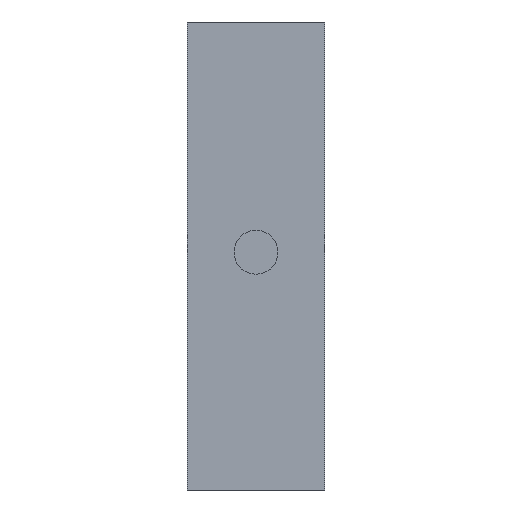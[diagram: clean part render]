
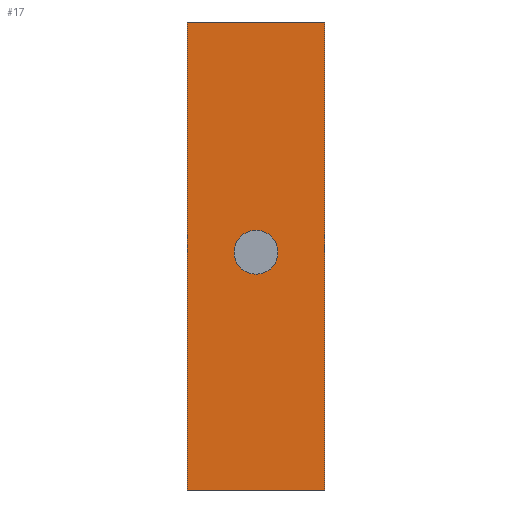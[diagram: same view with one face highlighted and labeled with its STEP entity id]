
A CAD part, left-side view. The second image highlights one B-rep face of the part: STEP entity #17.
In plain terms, the highlighted planar face has unit normal (-1, 0, 0).
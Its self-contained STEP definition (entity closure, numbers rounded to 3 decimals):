
#17 = ADVANCED_FACE('',(#18,#137),#32,.F.);
#18 = FACE_BOUND('',#19,.F.);
#19 = EDGE_LOOP('',(#20,#55,#83,#111));
#20 = ORIENTED_EDGE('',*,*,#21,.F.);
#21 = EDGE_CURVE('',#22,#24,#26,.T.);
#22 = VERTEX_POINT('',#23);
#23 = CARTESIAN_POINT('',(0.,0.,0.));
#24 = VERTEX_POINT('',#25);
#25 = CARTESIAN_POINT('',(0.,0.,340.5));
#26 = SURFACE_CURVE('',#27,(#31,#43),.PCURVE_S1.);
#27 = LINE('',#28,#29);
#28 = CARTESIAN_POINT('',(0.,0.,0.));
#29 = VECTOR('',#30,1.);
#30 = DIRECTION('',(0.,0.,1.));
#31 = PCURVE('',#32,#37);
#32 = PLANE('',#33);
#33 = AXIS2_PLACEMENT_3D('',#34,#35,#36);
#34 = CARTESIAN_POINT('',(0.,0.,0.));
#35 = DIRECTION('',(1.,0.,-0.));
#36 = DIRECTION('',(0.,0.,1.));
#37 = DEFINITIONAL_REPRESENTATION('',(#38),#42);
#38 = LINE('',#39,#40);
#39 = CARTESIAN_POINT('',(0.,0.));
#40 = VECTOR('',#41,1.);
#41 = DIRECTION('',(1.,0.));
#42 = ( GEOMETRIC_REPRESENTATION_CONTEXT(2) 
PARAMETRIC_REPRESENTATION_CONTEXT() REPRESENTATION_CONTEXT('2D SPACE',''
  ) );
#43 = PCURVE('',#44,#49);
#44 = PLANE('',#45);
#45 = AXIS2_PLACEMENT_3D('',#46,#47,#48);
#46 = CARTESIAN_POINT('',(0.,0.,0.));
#47 = DIRECTION('',(-0.,1.,0.));
#48 = DIRECTION('',(0.,0.,1.));
#49 = DEFINITIONAL_REPRESENTATION('',(#50),#54);
#50 = LINE('',#51,#52);
#51 = CARTESIAN_POINT('',(0.,0.));
#52 = VECTOR('',#53,1.);
#53 = DIRECTION('',(1.,0.));
#54 = ( GEOMETRIC_REPRESENTATION_CONTEXT(2) 
PARAMETRIC_REPRESENTATION_CONTEXT() REPRESENTATION_CONTEXT('2D SPACE',''
  ) );
#55 = ORIENTED_EDGE('',*,*,#56,.T.);
#56 = EDGE_CURVE('',#22,#57,#59,.T.);
#57 = VERTEX_POINT('',#58);
#58 = CARTESIAN_POINT('',(0.,100.,0.));
#59 = SURFACE_CURVE('',#60,(#64,#71),.PCURVE_S1.);
#60 = LINE('',#61,#62);
#61 = CARTESIAN_POINT('',(0.,0.,0.));
#62 = VECTOR('',#63,1.);
#63 = DIRECTION('',(-0.,1.,0.));
#64 = PCURVE('',#32,#65);
#65 = DEFINITIONAL_REPRESENTATION('',(#66),#70);
#66 = LINE('',#67,#68);
#67 = CARTESIAN_POINT('',(0.,0.));
#68 = VECTOR('',#69,1.);
#69 = DIRECTION('',(0.,-1.));
#70 = ( GEOMETRIC_REPRESENTATION_CONTEXT(2) 
PARAMETRIC_REPRESENTATION_CONTEXT() REPRESENTATION_CONTEXT('2D SPACE',''
  ) );
#71 = PCURVE('',#72,#77);
#72 = PLANE('',#73);
#73 = AXIS2_PLACEMENT_3D('',#74,#75,#76);
#74 = CARTESIAN_POINT('',(0.,0.,0.));
#75 = DIRECTION('',(0.,0.,1.));
#76 = DIRECTION('',(1.,0.,-0.));
#77 = DEFINITIONAL_REPRESENTATION('',(#78),#82);
#78 = LINE('',#79,#80);
#79 = CARTESIAN_POINT('',(0.,0.));
#80 = VECTOR('',#81,1.);
#81 = DIRECTION('',(0.,1.));
#82 = ( GEOMETRIC_REPRESENTATION_CONTEXT(2) 
PARAMETRIC_REPRESENTATION_CONTEXT() REPRESENTATION_CONTEXT('2D SPACE',''
  ) );
#83 = ORIENTED_EDGE('',*,*,#84,.T.);
#84 = EDGE_CURVE('',#57,#85,#87,.T.);
#85 = VERTEX_POINT('',#86);
#86 = CARTESIAN_POINT('',(0.,100.,340.5));
#87 = SURFACE_CURVE('',#88,(#92,#99),.PCURVE_S1.);
#88 = LINE('',#89,#90);
#89 = CARTESIAN_POINT('',(0.,100.,0.));
#90 = VECTOR('',#91,1.);
#91 = DIRECTION('',(0.,0.,1.));
#92 = PCURVE('',#32,#93);
#93 = DEFINITIONAL_REPRESENTATION('',(#94),#98);
#94 = LINE('',#95,#96);
#95 = CARTESIAN_POINT('',(0.,-100.));
#96 = VECTOR('',#97,1.);
#97 = DIRECTION('',(1.,0.));
#98 = ( GEOMETRIC_REPRESENTATION_CONTEXT(2) 
PARAMETRIC_REPRESENTATION_CONTEXT() REPRESENTATION_CONTEXT('2D SPACE',''
  ) );
#99 = PCURVE('',#100,#105);
#100 = PLANE('',#101);
#101 = AXIS2_PLACEMENT_3D('',#102,#103,#104);
#102 = CARTESIAN_POINT('',(0.,100.,0.));
#103 = DIRECTION('',(-0.,1.,0.));
#104 = DIRECTION('',(0.,0.,1.));
#105 = DEFINITIONAL_REPRESENTATION('',(#106),#110);
#106 = LINE('',#107,#108);
#107 = CARTESIAN_POINT('',(0.,0.));
#108 = VECTOR('',#109,1.);
#109 = DIRECTION('',(1.,0.));
#110 = ( GEOMETRIC_REPRESENTATION_CONTEXT(2) 
PARAMETRIC_REPRESENTATION_CONTEXT() REPRESENTATION_CONTEXT('2D SPACE',''
  ) );
#111 = ORIENTED_EDGE('',*,*,#112,.F.);
#112 = EDGE_CURVE('',#24,#85,#113,.T.);
#113 = SURFACE_CURVE('',#114,(#118,#125),.PCURVE_S1.);
#114 = LINE('',#115,#116);
#115 = CARTESIAN_POINT('',(0.,0.,340.5));
#116 = VECTOR('',#117,1.);
#117 = DIRECTION('',(-0.,1.,0.));
#118 = PCURVE('',#32,#119);
#119 = DEFINITIONAL_REPRESENTATION('',(#120),#124);
#120 = LINE('',#121,#122);
#121 = CARTESIAN_POINT('',(340.5,0.));
#122 = VECTOR('',#123,1.);
#123 = DIRECTION('',(0.,-1.));
#124 = ( GEOMETRIC_REPRESENTATION_CONTEXT(2) 
PARAMETRIC_REPRESENTATION_CONTEXT() REPRESENTATION_CONTEXT('2D SPACE',''
  ) );
#125 = PCURVE('',#126,#131);
#126 = PLANE('',#127);
#127 = AXIS2_PLACEMENT_3D('',#128,#129,#130);
#128 = CARTESIAN_POINT('',(0.,0.,340.5));
#129 = DIRECTION('',(0.,0.,1.));
#130 = DIRECTION('',(1.,0.,-0.));
#131 = DEFINITIONAL_REPRESENTATION('',(#132),#136);
#132 = LINE('',#133,#134);
#133 = CARTESIAN_POINT('',(0.,0.));
#134 = VECTOR('',#135,1.);
#135 = DIRECTION('',(0.,1.));
#136 = ( GEOMETRIC_REPRESENTATION_CONTEXT(2) 
PARAMETRIC_REPRESENTATION_CONTEXT() REPRESENTATION_CONTEXT('2D SPACE',''
  ) );
#137 = FACE_BOUND('',#138,.F.);
#138 = EDGE_LOOP('',(#139));
#139 = ORIENTED_EDGE('',*,*,#140,.F.);
#140 = EDGE_CURVE('',#141,#141,#143,.T.);
#141 = VERTEX_POINT('',#142);
#142 = CARTESIAN_POINT('',(0.,50.,157.));
#143 = SURFACE_CURVE('',#144,(#149,#156),.PCURVE_S1.);
#144 = CIRCLE('',#145,16.);
#145 = AXIS2_PLACEMENT_3D('',#146,#147,#148);
#146 = CARTESIAN_POINT('',(0.,50.,173.));
#147 = DIRECTION('',(1.,0.,0.));
#148 = DIRECTION('',(0.,0.,-1.));
#149 = PCURVE('',#32,#150);
#150 = DEFINITIONAL_REPRESENTATION('',(#151),#155);
#151 = CIRCLE('',#152,16.);
#152 = AXIS2_PLACEMENT_2D('',#153,#154);
#153 = CARTESIAN_POINT('',(173.,-50.));
#154 = DIRECTION('',(-1.,0.));
#155 = ( GEOMETRIC_REPRESENTATION_CONTEXT(2) 
PARAMETRIC_REPRESENTATION_CONTEXT() REPRESENTATION_CONTEXT('2D SPACE',''
  ) );
#156 = PCURVE('',#157,#162);
#157 = CYLINDRICAL_SURFACE('',#158,16.);
#158 = AXIS2_PLACEMENT_3D('',#159,#160,#161);
#159 = CARTESIAN_POINT('',(-0.5,50.,173.));
#160 = DIRECTION('',(1.,0.,0.));
#161 = DIRECTION('',(0.,0.,-1.));
#162 = DEFINITIONAL_REPRESENTATION('',(#163),#167);
#163 = LINE('',#164,#165);
#164 = CARTESIAN_POINT('',(0.,0.5));
#165 = VECTOR('',#166,1.);
#166 = DIRECTION('',(1.,0.));
#167 = ( GEOMETRIC_REPRESENTATION_CONTEXT(2) 
PARAMETRIC_REPRESENTATION_CONTEXT() REPRESENTATION_CONTEXT('2D SPACE',''
  ) );
